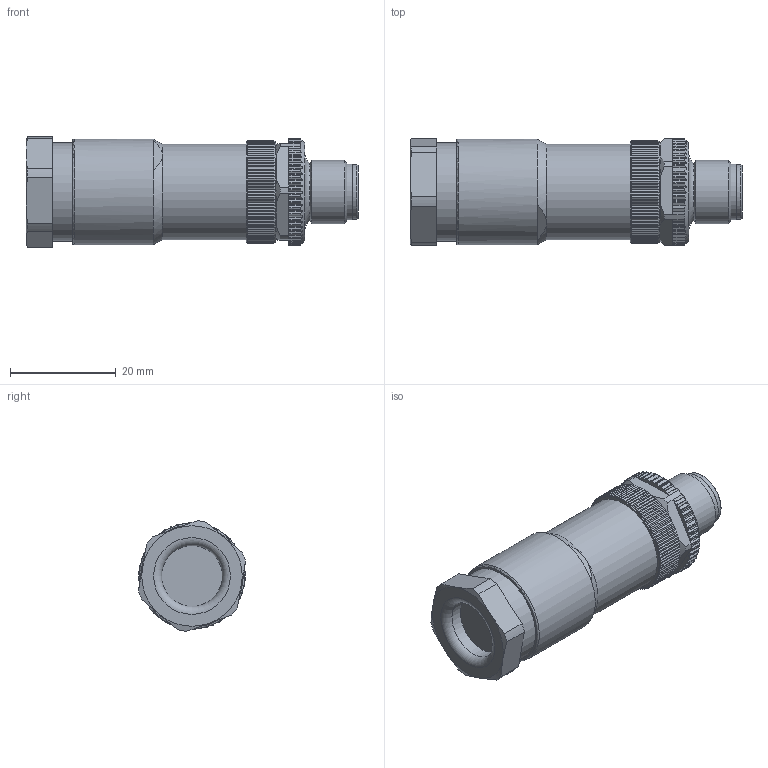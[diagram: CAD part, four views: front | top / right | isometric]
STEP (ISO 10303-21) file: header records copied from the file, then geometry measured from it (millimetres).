
FILE_DESCRIPTION(/* description */ (''),/* implementation_level */ '2;1');
FILE_NAME(/* name */ '99 0689 XXX 04 003.stp',/* time_stamp */ '2020-10-28T07:26:17+01:00',/* author */ (''),/* organization */ (''),/* preprocessor_version */ 'ST-DEVELOPER v16',/* originating_system */ 'SIEMENS PLM Software NX 11.0',/* authorisation */ '');
FILE_SCHEMA (('AUTOMOTIVE_DESIGN { 1 0 10303 214 3 1 1 1 }'));
Length unit declared in the file: millimetre
Products named in the file (1): rhen285C179Bwerw
Bounding box: 62.82 x 20.26 x 20.91 mm (x, y, z)
Volume: 15460.4 mm3; surface area: 5179.5 mm2
Topology: 1 solids, 1 shells, 712 faces, 1968 edges, 1278 vertices
Faces by surface type: plane 369, cylinder 280, torus 32, cone 20, sphere 11
Full cylindrical faces by diameter (mm): 1.5 x4, 1.6 x4, 2.17 x4, 8.35 x1, 9.9 x1, 10.3 x1, 10.6 x1, 11.5 x1, 12 x1, 17.188 x1, 18 x1, 18.6 x1, 19 x1, 20 x1
Entity records: 23942 total; most frequent: CARTESIAN_POINT 6465, ORIENTED_EDGE 3802, DIRECTION 3416, EDGE_CURVE 1901, VERTEX_POINT 1256, AXIS2_PLACEMENT_3D 1229, LINE 958, VECTOR 958
